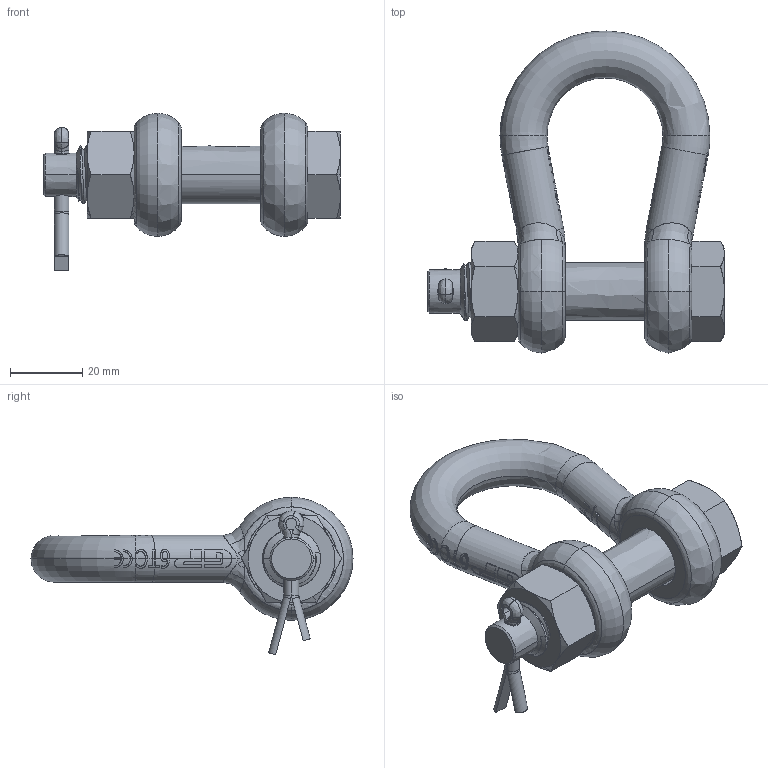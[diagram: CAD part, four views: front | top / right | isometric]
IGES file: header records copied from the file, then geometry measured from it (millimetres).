
Start section: START RECORD GO HERE.
Global section: file name: 2.igs; native system: Solidworks 2009            ion 5 Release 17 ; preprocessor: CATIA Version 5 Release 17 ; author: v.b.; organization: P4; date: 20090807.082602; units: millimetre
Bounding box: 82 x 89 x 43.49 mm (x, y, z)
Surface area: 20166.1 mm2 (no closed solid volume)
Topology: 0 solids, 0 shells, 670 faces, 5010 edges, 5002 vertices
Faces by surface type: bspline 245, plane 225, revolution 200
